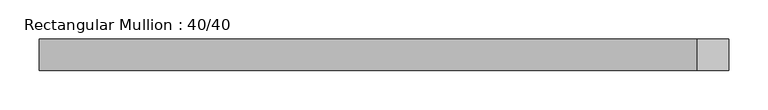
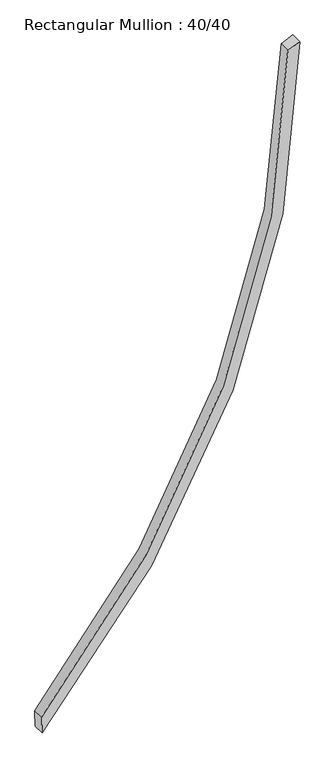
"""IFC4 building model written with IfcOpenShell, lengths in millimetres: member geometry, Rectangular Mullion : 40/40."""

import ifcopenshell
import ifcopenshell.guid

model = None  # the IFC model being written
_history = None  # IfcOwnerHistory: only IFC2X3 demands one
_inside = {}  # id of a spatial element -> (the spatial element, [elements in it])
_under = {}  # id of a project, library or spatial element -> (it, [spatial elements below it])
_declared = {}  # id of a project -> (the project, [libraries it declares])
_typed = {}  # id of a type object -> (the type object, [elements of that type])
_made_of = {}  # id of a material, layer set ... -> (it, [elements and type objects made of it])


def new_model(schema):
    """Start an empty IFC model of exactly this schema.

    Asked for "IFC4X3", IfcOpenShell would pick the latest addendum, in which some entities
    have other attributes; the version numbers below select the first issue.
    IFC2X3 requires an IfcOwnerHistory on every rooted entity: one is made here for all.
    """
    global model, _history
    if schema == "IFC4X3":
        model = ifcopenshell.file(schema_version=(4, 3, 0, 0))
    else:
        model = ifcopenshell.file(schema=schema)
    _inside.clear()
    _under.clear()
    _declared.clear()
    _typed.clear()
    _made_of.clear()
    _history = None
    if model.schema == "IFC2X3":
        org = make("IfcOrganization", Name="unknown")
        user = make(
            "IfcPersonAndOrganization",
            ThePerson=make("IfcPerson", FamilyName="unknown"),
            TheOrganization=org,
        )
        app = make(
            "IfcApplication",
            ApplicationDeveloper=org,
            Version="unknown",
            ApplicationFullName="unknown",
            ApplicationIdentifier="unknown",
        )
        _history = make(
            "IfcOwnerHistory",
            OwningUser=user,
            OwningApplication=app,
            ChangeAction="ADDED",
            CreationDate=0,
        )
    return model


def make(cls, **values):
    """One entity of the class cls with the attributes given. An attribute that is None is left unset."""
    return model.create_entity(
        cls, **{name: value for name, value in values.items() if value is not None}
    )


def rooted(cls, **values):
    """An entity with a GlobalId (a new one), such as an element, a storey or a relation."""
    return make(cls, GlobalId=ifcopenshell.guid.new(), OwnerHistory=_history, **values)


def si_unit(unit_type, name, prefix=None):
    """IfcSIUnit, for example si_unit("LENGTHUNIT", "METRE", prefix="MILLI")."""
    return make("IfcSIUnit", UnitType=unit_type, Prefix=prefix, Name=name)


def assignment(units):
    """IfcUnitAssignment: the units of a project."""
    return None if units is None else make("IfcUnitAssignment", Units=units)


def point(xyz):
    """IfcCartesianPoint."""
    return None if xyz is None else make("IfcCartesianPoint", Coordinates=xyz)


def direction(xyz):
    """IfcDirection."""
    return None if xyz is None else make("IfcDirection", DirectionRatios=xyz)


def frame(location, z_axis=None, x_axis=None):
    """IfcAxis2Placement3D, a coordinate frame: its origin and axes. An axis left out is left unset."""
    return make(
        "IfcAxis2Placement3D",
        Location=point(location),
        Axis=direction(z_axis),
        RefDirection=direction(x_axis),
    )


def frame_2d(location, x_axis=None):
    """IfcAxis2Placement2D, a coordinate frame in the plane: its origin and x axis."""
    return make(
        "IfcAxis2Placement2D", Location=point(location), RefDirection=direction(x_axis)
    )


def origin():
    """The frame at (0, 0, 0) with its axes left unset."""
    return frame((0.0, 0.0, 0.0))


def place(relative_to, where):
    """IfcLocalPlacement: puts the frame where relative to a parent placement (None: the world)."""
    return make(
        "IfcLocalPlacement", PlacementRelTo=relative_to, RelativePlacement=where
    )


def context(
    kind, dimensions, precision=None, world=None, true_north=None, identifier=None
):
    """IfcGeometricRepresentationContext, for example the 3D "Model" context."""
    return make(
        "IfcGeometricRepresentationContext",
        ContextIdentifier=identifier,
        ContextType=kind,
        CoordinateSpaceDimension=dimensions,
        Precision=precision,
        WorldCoordinateSystem=world,
        TrueNorth=true_north,
    )


def project(units=None, contexts=None):
    """IfcProject with its units and contexts."""
    return rooted(
        "IfcProject",
        Name="project",
        RepresentationContexts=contexts,
        UnitsInContext=assignment(units),
    )


def spatial(cls, under=None, at=None, **own):
    """A site, building, storey or space (cls), placed at a placement, below another one or the project."""
    s = rooted(cls, ObjectPlacement=at, **own)
    if under is not None:
        _under.setdefault(under.id(), (under, []))[1].append(s)
    return s


def polyline(points):
    """IfcPolyline through the points."""
    return make("IfcPolyline", Points=[point(p) for p in points])


def circle_curve(where, radius):
    """IfcCircle in the frame where."""
    return make("IfcCircle", Position=where, Radius=radius)


def trimmed(basis, trim1, trim2, sense, master):
    """IfcTrimmedCurve: the piece of a basis curve between two trims."""
    return make(
        "IfcTrimmedCurve",
        BasisCurve=basis,
        Trim1=trim1,
        Trim2=trim2,
        SenseAgreement=sense,
        MasterRepresentation=master,
    )


def segment(curve, same_sense, transition):
    """IfcCompositeCurveSegment."""
    return make(
        "IfcCompositeCurveSegment",
        Transition=transition,
        SameSense=same_sense,
        ParentCurve=curve,
    )


def composite_curve(segments, self_intersect=None):
    """IfcCompositeCurve: segments joined end to end."""
    return make("IfcCompositeCurve", Segments=segments, SelfIntersect=self_intersect)


def outline(outer, holes=None, kind="AREA"):
    """IfcArbitraryClosedProfileDef: a profile drawn as a closed curve; with holes, ...WithVoids."""
    if holes is None:
        return make("IfcArbitraryClosedProfileDef", ProfileType=kind, OuterCurve=outer)
    return make(
        "IfcArbitraryProfileDefWithVoids",
        ProfileType=kind,
        OuterCurve=outer,
        InnerCurves=holes,
    )


def extrude(swept, where, along, depth):
    """IfcExtrudedAreaSolid: the profile swept, set in the frame where, extruded along a direction by depth."""
    return make(
        "IfcExtrudedAreaSolid",
        SweptArea=swept,
        Position=where,
        ExtrudedDirection=direction(along),
        Depth=depth,
    )


def shape(context_of_items, identifier, shape_type, items):
    """IfcShapeRepresentation: the items that make up one representation, for example the "Body"."""
    return make(
        "IfcShapeRepresentation",
        ContextOfItems=context_of_items,
        RepresentationIdentifier=identifier,
        RepresentationType=shape_type,
        Items=items,
    )


def source(mapping_origin, context_of_items, identifier, shape_type, items):
    """IfcRepresentationMap: a shape defined once, which mapped items show again and again."""
    return make(
        "IfcRepresentationMap",
        MappingOrigin=mapping_origin,
        MappedRepresentation=shape(context_of_items, identifier, shape_type, items),
    )


def transform(
    local_origin,
    x_axis=None,
    y_axis=None,
    z_axis=None,
    scale=None,
    scale2=None,
    scale3=None,
    uniform=True,
):
    """IfcCartesianTransformationOperator3D, or its non-uniform kind. x_axis, y_axis, z_axis: its Axis1, 2, 3."""
    if uniform:
        return make(
            "IfcCartesianTransformationOperator3D",
            Axis1=direction(x_axis),
            Axis2=direction(y_axis),
            LocalOrigin=point(local_origin),
            Scale=scale,
            Axis3=direction(z_axis),
        )
    return make(
        "IfcCartesianTransformationOperator3DnonUniform",
        Axis1=direction(x_axis),
        Axis2=direction(y_axis),
        LocalOrigin=point(local_origin),
        Scale=scale,
        Axis3=direction(z_axis),
        Scale2=scale2,
        Scale3=scale3,
    )


def mapped(mapping_source, mapping_target):
    """IfcMappedItem: shows the shape of a source again, moved by a transform."""
    return make(
        "IfcMappedItem", MappingSource=mapping_source, MappingTarget=mapping_target
    )


def made_of(thing, what):
    """Note that an element or type object is made of a material, layer set ...; save() writes the relation."""
    if what is not None:
        _made_of.setdefault(what.id(), (what, []))[1].append(thing)
    return thing


def element(
    cls,
    number,
    at=None,
    inside=None,
    cuts=None,
    type_object=None,
    material=None,
    context=None,
    identifier="Body",
    shape_type=None,
    held_by="IfcProductDefinitionShape",
    body=None,
    shapes=None,
    **own,
):
    """One element of the class cls, such as IfcWall. Its Tag is "e" and its number.

    at: its placement. inside: the storey or other place that contains it. cuts: it is an
    opening in that element (IfcRelVoidsElement). A single representation is given by context,
    identifier, shape_type and body (its items); several are given by shapes. held_by: the class
    of the entity that holds the representations. save() writes the other relations.
    """
    e = rooted(cls, Tag="e%d" % number, ObjectPlacement=at, **own)
    if body is not None:
        shapes = [shape(context, identifier, shape_type, body)]
    if shapes is not None:
        e.Representation = make(held_by, Representations=shapes)
    if inside is not None:
        _inside.setdefault(inside.id(), (inside, []))[1].append(e)
    if cuts is not None:
        rooted(
            "IfcRelVoidsElement", RelatingBuildingElement=cuts, RelatedOpeningElement=e
        )
    if type_object is not None:
        _typed.setdefault(type_object.id(), (type_object, []))[1].append(e)
    return made_of(e, material)


def aggregate(whole, parts):
    """IfcRelAggregates: a whole, such as a stair, and the parts it consists of."""
    return rooted("IfcRelAggregates", RelatingObject=whole, RelatedObjects=parts)


def save(model, path):
    """Write the relations noted so far, then the file.

    IfcRelAggregates (storeys below a building ...), IfcRelContainedInSpatialStructure (elements
    in a storey), IfcRelDefinesByType, IfcRelAssociatesMaterial and IfcRelDeclares: one each for
    every whole, place, type object, material and project.
    """
    for whole, parts in _under.values():
        aggregate(whole, parts)
    for where, things in _inside.values():
        rooted(
            "IfcRelContainedInSpatialStructure",
            RelatedElements=things,
            RelatingStructure=where,
        )
    for kind, things in _typed.values():
        rooted("IfcRelDefinesByType", RelatedObjects=things, RelatingType=kind)
    for what, things in _made_of.values():
        rooted("IfcRelAssociatesMaterial", RelatedObjects=things, RelatingMaterial=what)
    for by, libraries in _declared.values():
        rooted("IfcRelDeclares", RelatingContext=by, RelatedDefinitions=libraries)
    model.write(path)


def rectangular_mullion_40_40_ef17f03d(model_context):
    return source(origin(), model_context, "Body", "SweptSolid", [
        extrude(outline(composite_curve([segment(trimmed(circle_curve(frame_2d((0.0, -3144.0794878)), 3144.0794878), [point((-2180.119263, -878.6179841))], [point((0.0, 0.0))], False, "CARTESIAN"), True, "CONTINUOUS"), segment(polyline([(0.0, 0.0), (-17.0449975, -40.0467988)]), True, "CONTINUOUS"), segment(trimmed(circle_curve(frame_2d((0.0, -3144.0794878)), 3104.0794878), [point((-17.0449975, -40.0467988))], [point((-2123.1978046, -879.7163214))], True, "CARTESIAN"), True, "CONTINUOUS"), segment(polyline([(-2123.1978046, -879.7163214), (-2180.119263, -878.6179841)]), True, "CONTINUOUS")], self_intersect=False)), frame((0.0, -20.0, 0.0), z_axis=(0.0, 1.0, 0.0), x_axis=(0.0, 0.0, 1.0)), (0.0, 0.0, 1.0), 40.0),
    ])


if __name__ == "__main__":
    model = new_model("IFC4")
    model_context = context("Model", 3, world=origin())
    ifc_project = project(units=[si_unit("LENGTHUNIT", "METRE", prefix="MILLI")], contexts=[model_context])
    site = spatial("IfcSite", under=ifc_project)
    building = spatial("IfcBuilding", under=site)
    placement = place(None, origin())
    rectangular_mullion_40_40_shape = rectangular_mullion_40_40_ef17f03d(model_context)
    element("IfcMember", 1, ObjectType="Rectangular Mullion : 40/40", at=placement, inside=building, context=model_context, shape_type="MappedRepresentation", body=[
        mapped(rectangular_mullion_40_40_shape, transform((0.0, 0.0, 0.0), x_axis=(1.0, 0.0, 0.0), y_axis=(0.0, 1.0, 0.0), z_axis=(0.0, 0.0, 1.0))),
    ])
    save(model, "model.ifc")
